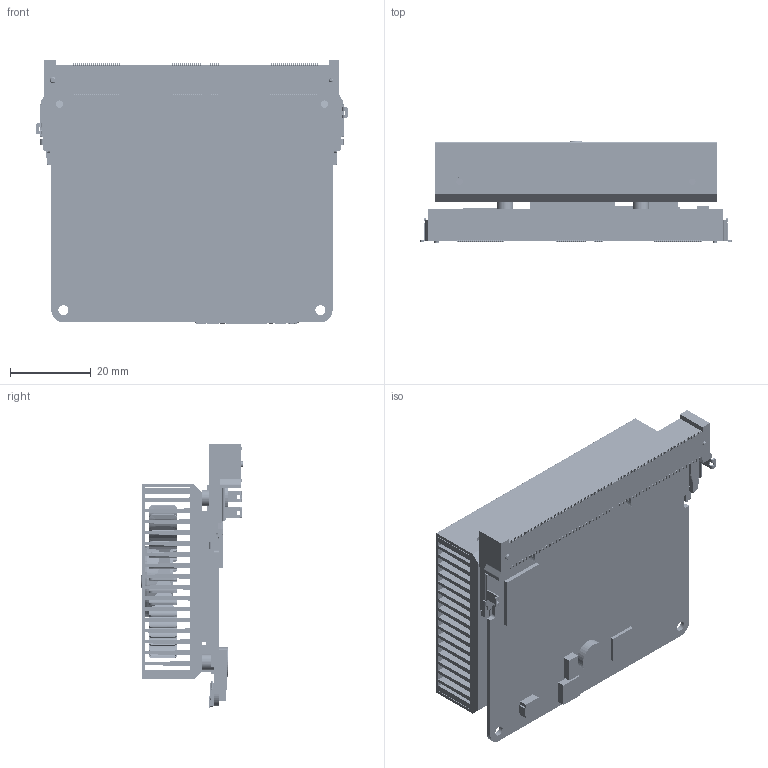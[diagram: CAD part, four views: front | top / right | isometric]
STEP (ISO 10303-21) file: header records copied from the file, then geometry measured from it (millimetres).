
FILE_DESCRIPTION(/* description */ (''),/* implementation_level */ '2;1');
FILE_NAME(/* name */ 'LattePanda_Mu_H8.0_Horizontal.step',/* time_stamp */ '2024-04-02T15:46:59+08:00',/* author */ (''),/* organization */ (''),/* preprocessor_version */ 'ST-DEVELOPER v20',/* originating_system */ 'Autodesk Translation Framework v12.20.1.177',/* authorisation */ '');
FILE_SCHEMA (('AUTOMOTIVE_DESIGN { 1 0 10303 214 3 1 1 }'));
Products named in the file (39): 核心板+散热器 简化模型 
20240402; LattePanda_Mu; LV0504-40P_VS_LV0505-40P_ASM; LV0504_VS_LV0505_STP_ASM; LV0505-401GB_ASM; LV0505-R40X; LV0505H-H40X; LV0504-40-0010RA-G3_STP_ASM; LV0504-40-0010RA-G3; LATTEPANDA_MU_-2020001_ASM; DOCUMENT_A_ASM; BREP_1; BREP_2; _X2_5B9E4F53_X0_1; BREP_9; BREP_10; BREP_11; BREP_13; FPC0510-06B2-G1R; FPC0510-24B2-G1R; S70NC1R100; CPU; QFN19_0D5_3X4_H0D9; SML_7P0X6P6_3P0H; CAP_2_3D5X2D8_H1D9; CAP_2_7D3X4D3_H1D9; TK1_LCC21_3100X5100_400_MA; part29; part30; part31; part32; part33; part34; part35; part36; part37; part38; part39; c-2309411-1-1-3d v1
Assembly tree (48 placements, depth 6):
  核心板+散热器 简化模型 
20240402
    LattePanda_Mu
      LV0504-40P_VS_LV0505-40P_ASM
        LV0504_VS_LV0505_STP_ASM
          LV0505-401GB_ASM
            LV0505-R40X
            LV0505H-H40X
          LV0504-40-0010RA-G3_STP_ASM
            LV0504-40-0010RA-G3
      LATTEPANDA_MU_-2020001_ASM
        DOCUMENT_A_ASM
          BREP_1
          BREP_2
          _X2_5B9E4F53_X0_1
          BREP_9
          BREP_10
          BREP_11
          BREP_13
      FPC0510-06B2-G1R
      FPC0510-24B2-G1R
      S70NC1R100
      CPU
      SML_7P0X6P6_3P0H  x4
      CAP_2_7D3X4D3_H1D9  x4
      CAP_2_3D5X2D8_H1D9  x3
      QFN19_0D5_3X4_H0D9
      TK1_LCC21_3100X5100_400_MA  x3
      part29
      part30
      part31
      part32
      part33
      part34
      part35
      part36
      part37
      part38
      part39
    c-2309411-1-1-3d v1
Bounding box: 77.02 x 25.38 x 65.31 mm (x, y, z)
Volume: 37417.6 mm3; surface area: 58477.2 mm2
Topology: 69 solids, 71 shells, 13664 faces, 38801 edges, 25560 vertices
Faces by surface type: plane 9751, cylinder 3437, bspline 381, cone 53, torus 28, sphere 14
Full cylindrical faces by diameter (mm): 0.3 x4, 0.5 x7, 0.9 x1, 1.428 x1, 1.6 x10, 1.8 x2, 2.2 x7, 2.5 x2, 3 x3, 3.2 x3, 4 x3, 7.5 x3, 14.253 x1, 16.311 x1, 17.638 x1, 40 x1
Entity records: 476231 total; most frequent: CARTESIAN_POINT 119710, ORIENTED_EDGE 75690, DIRECTION 70603, EDGE_CURVE 37845, LINE 29245, VECTOR 29245, VERTEX_POINT 24924, AXIS2_PLACEMENT_3D 20679
